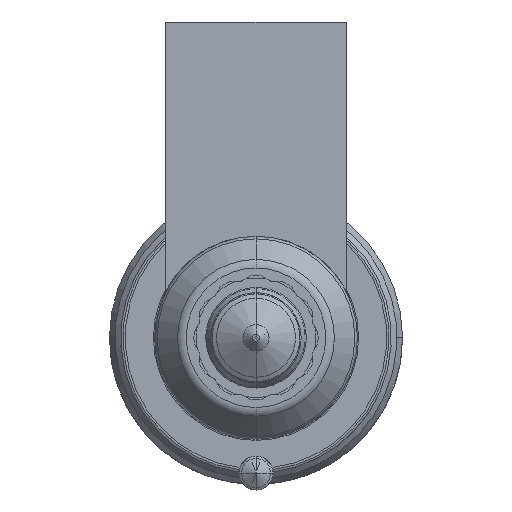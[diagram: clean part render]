
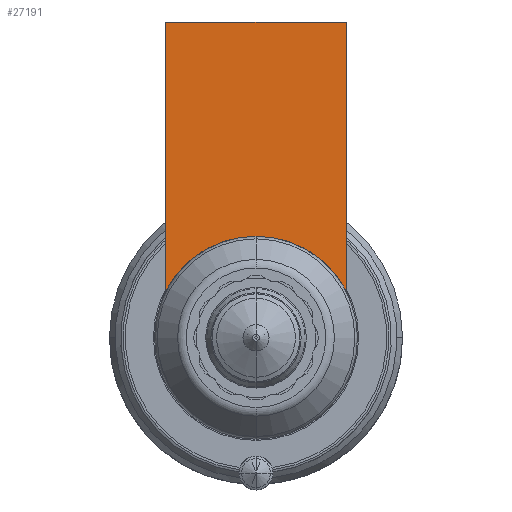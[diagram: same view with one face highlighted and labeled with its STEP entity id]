
A CAD part, front view. The second image highlights one B-rep face of the part: STEP entity #27191.
In plain terms, the highlighted planar face has unit normal (0, -1, 0).
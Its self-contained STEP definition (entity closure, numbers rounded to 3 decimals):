
#26386=CARTESIAN_POINT('',(0.,-54.,0.));
#26387=DIRECTION('',(0.,-1.,0.));
#26388=DIRECTION('',(0.,0.,1.));
#26389=AXIS2_PLACEMENT_3D('',#26386,#26387,#26388);
#26395=DIRECTION('',(1.,0.,0.));
#26396=VECTOR('',#26395,16.);
#26397=CARTESIAN_POINT('',(-8.,-54.,28.));
#26398=LINE('',#26397,#26396);
#26402=CARTESIAN_POINT('',(0.,-54.,0.));
#26403=DIRECTION('',(0.,-1.,0.));
#26404=DIRECTION('',(0.889,0.,0.458));
#26405=AXIS2_PLACEMENT_3D('',#26402,#26403,#26404);
#26551=DIRECTION('',(0.,0.,-1.));
#26552=VECTOR('',#26551,23.877);
#26553=CARTESIAN_POINT('',(8.,-54.,28.));
#26554=LINE('',#26553,#26552);
#26614=DIRECTION('',(0.,0.,-1.));
#26615=VECTOR('',#26614,23.877);
#26616=CARTESIAN_POINT('',(-8.,-54.,28.));
#26617=LINE('',#26616,#26615);
#27149=CARTESIAN_POINT('',(-8.,-54.,28.));
#27150=VERTEX_POINT('',#27149);
#27155=CARTESIAN_POINT('',(8.,-54.,28.));
#27156=VERTEX_POINT('',#27155);
#27161=CARTESIAN_POINT('',(0.,-54.,9.));
#27162=CARTESIAN_POINT('',(-8.,-54.,4.123));
#27163=VERTEX_POINT('',#27161);
#27164=VERTEX_POINT('',#27162);
#27165=CARTESIAN_POINT('',(8.,-54.,4.123));
#27166=VERTEX_POINT('',#27165);
#27174=CARTESIAN_POINT('',(0.,-54.,9.));
#27175=DIRECTION('',(0.,1.,0.));
#27176=DIRECTION('',(0.,0.,-1.));
#27177=AXIS2_PLACEMENT_3D('',#27174,#27175,#27176);
#27178=PLANE('',#27177);
#27180=ORIENTED_EDGE('',*,*,#27179,.T.);
#27182=ORIENTED_EDGE('',*,*,#27181,.F.);
#27184=ORIENTED_EDGE('',*,*,#27183,.T.);
#27186=ORIENTED_EDGE('',*,*,#27185,.T.);
#27188=ORIENTED_EDGE('',*,*,#27187,.T.);
#27189=EDGE_LOOP('',(#27180,#27182,#27184,#27186,#27188));
#27190=FACE_OUTER_BOUND('',#27189,.F.);
#27191=ADVANCED_FACE('',(#27190),#27178,.F.);
#26390=CIRCLE('',#26389,9.);
#26406=CIRCLE('',#26405,9.);
#27179=EDGE_CURVE('',#27163,#27164,#26390,.T.);
#27181=EDGE_CURVE('',#27150,#27164,#26617,.T.);
#27183=EDGE_CURVE('',#27150,#27156,#26398,.T.);
#27185=EDGE_CURVE('',#27156,#27166,#26554,.T.);
#27187=EDGE_CURVE('',#27166,#27163,#26406,.T.);
